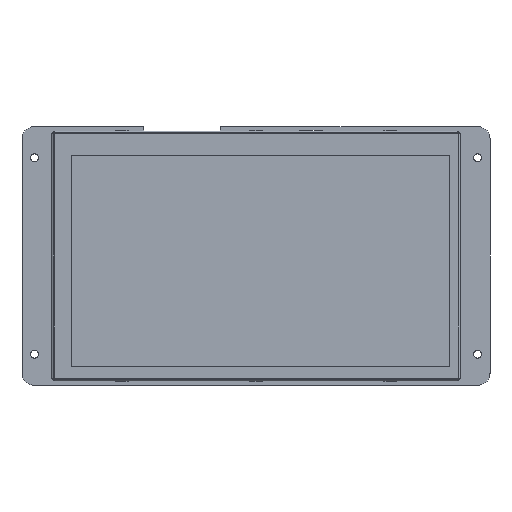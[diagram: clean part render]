
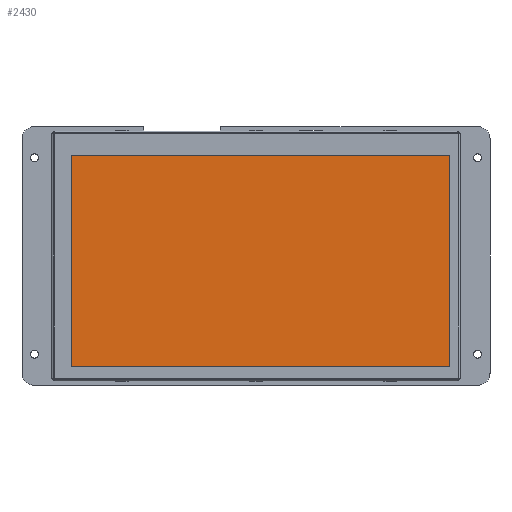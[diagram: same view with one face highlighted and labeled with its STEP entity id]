
A CAD part, front view. The second image highlights one B-rep face of the part: STEP entity #2430.
In plain terms, the highlighted planar face has unit normal (0, -1, 0).
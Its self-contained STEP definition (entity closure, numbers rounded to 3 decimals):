
#750 = ORIENTED_EDGE ( 'NONE', *, *, #17752, .T. ) ;
#921 = DIRECTION ( 'NONE',  ( -1., 0., 0. ) ) ;
#929 = VERTEX_POINT ( 'NONE', #15187 ) ;
#1308 = CARTESIAN_POINT ( 'NONE',  ( 160.83, -0.6, -9.15 ) ) ;
#2430 = ADVANCED_FACE ( 'NONE', ( #17585 ), #14995, .F. ) ;
#2454 = CARTESIAN_POINT ( 'NONE',  ( 6.75, -0.6, -9.15 ) ) ;
#4455 = LINE ( 'NONE', #17497, #5327 ) ;
#5327 = VECTOR ( 'NONE', #9120, 1000. ) ;
#5942 = CARTESIAN_POINT ( 'NONE',  ( 6.75, -0.6, -95.07 ) ) ;
#6201 = DIRECTION ( 'NONE',  ( 1., 0., 0. ) ) ;
#6792 = VERTEX_POINT ( 'NONE', #17839 ) ;
#7989 = AXIS2_PLACEMENT_3D ( 'NONE', #18221, #11159, #16167 ) ;
#9120 = DIRECTION ( 'NONE',  ( 0., 0., -1. ) ) ;
#9888 = VECTOR ( 'NONE', #18065, 1000. ) ;
#10420 = CARTESIAN_POINT ( 'NONE',  ( 160.83, -0.6, -95.07 ) ) ;
#11159 = DIRECTION ( 'NONE',  ( 0., 1., 0. ) ) ;
#11901 = ORIENTED_EDGE ( 'NONE', *, *, #14315, .T. ) ;
#11965 = EDGE_CURVE ( 'NONE', #17611, #6792, #15327, .T. ) ;
#12742 = ORIENTED_EDGE ( 'NONE', *, *, #11965, .T. ) ;
#13906 = CARTESIAN_POINT ( 'NONE',  ( 160.83, -0.6, -9.15 ) ) ;
#14045 = LINE ( 'NONE', #13906, #9888 ) ;
#14315 = EDGE_CURVE ( 'NONE', #14396, #929, #16506, .T. ) ;
#14396 = VERTEX_POINT ( 'NONE', #1308 ) ;
#14881 = VECTOR ( 'NONE', #6201, 1000. ) ;
#14995 = PLANE ( 'NONE',  #7989 ) ;
#15187 = CARTESIAN_POINT ( 'NONE',  ( 6.75, -0.6, -9.15 ) ) ;
#15327 = LINE ( 'NONE', #10420, #14881 ) ;
#15343 = EDGE_CURVE ( 'NONE', #6792, #14396, #14045, .T. ) ;
#16080 = VECTOR ( 'NONE', #921, 1000. ) ;
#16085 = ORIENTED_EDGE ( 'NONE', *, *, #15343, .T. ) ;
#16167 = DIRECTION ( 'NONE',  ( 0., 0., 1. ) ) ;
#16506 = LINE ( 'NONE', #2454, #16080 ) ;
#17497 = CARTESIAN_POINT ( 'NONE',  ( 6.75, -0.6, -95.07 ) ) ;
#17585 = FACE_OUTER_BOUND ( 'NONE', #17961, .T. ) ;
#17611 = VERTEX_POINT ( 'NONE', #5942 ) ;
#17752 = EDGE_CURVE ( 'NONE', #929, #17611, #4455, .T. ) ;
#17839 = CARTESIAN_POINT ( 'NONE',  ( 160.83, -0.6, -95.07 ) ) ;
#17961 = EDGE_LOOP ( 'NONE', ( #11901, #750, #12742, #16085 ) ) ;
#18065 = DIRECTION ( 'NONE',  ( 0., 0., 1. ) ) ;
#18221 = CARTESIAN_POINT ( 'NONE',  ( 0., -0.6, 0. ) ) ;
